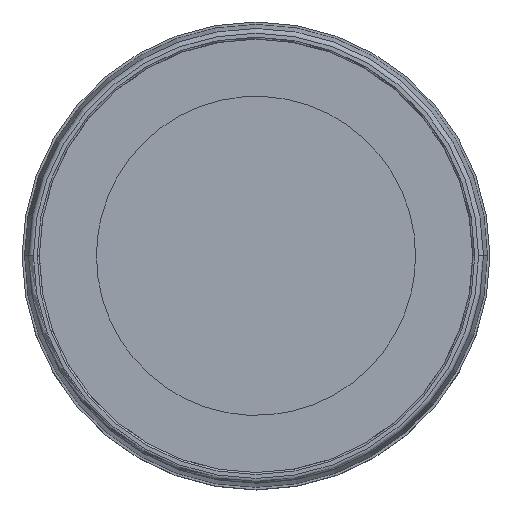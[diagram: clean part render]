
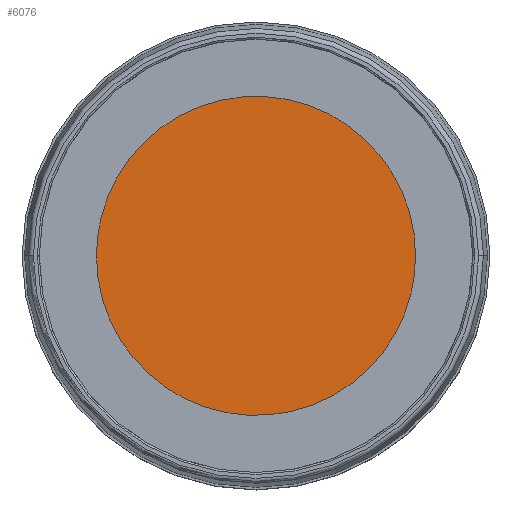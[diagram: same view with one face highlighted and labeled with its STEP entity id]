
A CAD part, top view. The second image highlights one B-rep face of the part: STEP entity #6076.
In plain terms, the highlighted planar face has unit normal (0, 0, 1).
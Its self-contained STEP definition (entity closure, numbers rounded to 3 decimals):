
#494=CARTESIAN_POINT('',(16.2,0.,-0.903));
#495=CARTESIAN_POINT('',(16.199,0.854,-0.903));
#496=CARTESIAN_POINT('',(16.068,2.539,-0.906));
#497=CARTESIAN_POINT('',(15.469,5.032,-0.905));
#498=CARTESIAN_POINT('',(14.497,7.379,-0.905));
#499=CARTESIAN_POINT('',(13.156,9.568,-0.905));
#500=CARTESIAN_POINT('',(11.508,11.497,-0.905));
#501=CARTESIAN_POINT('',(9.556,13.164,-0.905));
#502=CARTESIAN_POINT('',(7.391,14.491,-0.905));
#503=CARTESIAN_POINT('',(5.023,15.472,-0.905));
#504=CARTESIAN_POINT('',(2.548,16.066,-0.905));
#505=CARTESIAN_POINT('',(0.,16.267,-0.905));
#506=CARTESIAN_POINT('',(-2.548,16.066,
-0.905));
#507=CARTESIAN_POINT('',(-5.023,15.472,
-0.905));
#508=CARTESIAN_POINT('',(-7.391,14.491,
-0.905));
#509=CARTESIAN_POINT('',(-9.556,13.164,
-0.905));
#510=CARTESIAN_POINT('',(-11.508,11.497,
-0.905));
#511=CARTESIAN_POINT('',(-13.156,9.568,
-0.905));
#512=CARTESIAN_POINT('',(-14.497,7.379,
-0.905));
#513=CARTESIAN_POINT('',(-15.469,5.032,
-0.905));
#514=CARTESIAN_POINT('',(-16.068,2.539,
-0.906));
#515=CARTESIAN_POINT('',(-16.199,0.854,-0.903));
#516=CARTESIAN_POINT('',(-16.2,0.,-0.903));
#518=CARTESIAN_POINT('',(-16.2,0.,-0.903));
#519=CARTESIAN_POINT('',(-16.199,-0.854,-0.903));
#520=CARTESIAN_POINT('',(-16.068,-2.539,
-0.906));
#521=CARTESIAN_POINT('',(-15.469,-5.032,
-0.905));
#522=CARTESIAN_POINT('',(-14.497,-7.379,
-0.905));
#523=CARTESIAN_POINT('',(-13.156,-9.568,
-0.905));
#524=CARTESIAN_POINT('',(-11.508,-11.497,
-0.905));
#525=CARTESIAN_POINT('',(-9.556,-13.164,
-0.905));
#526=CARTESIAN_POINT('',(-7.391,-14.491,
-0.905));
#527=CARTESIAN_POINT('',(-5.023,-15.472,
-0.905));
#528=CARTESIAN_POINT('',(-2.548,-16.066,
-0.905));
#529=CARTESIAN_POINT('',(0.,-16.267,-0.905));
#530=CARTESIAN_POINT('',(2.548,-16.066,
-0.905));
#531=CARTESIAN_POINT('',(5.023,-15.472,
-0.905));
#532=CARTESIAN_POINT('',(7.391,-14.491,
-0.905));
#533=CARTESIAN_POINT('',(9.556,-13.164,
-0.905));
#534=CARTESIAN_POINT('',(11.508,-11.497,
-0.905));
#535=CARTESIAN_POINT('',(13.156,-9.568,
-0.905));
#536=CARTESIAN_POINT('',(14.497,-7.379,
-0.905));
#537=CARTESIAN_POINT('',(15.469,-5.032,
-0.905));
#538=CARTESIAN_POINT('',(16.068,-2.539,
-0.906));
#539=CARTESIAN_POINT('',(16.199,-0.854,-0.903));
#540=CARTESIAN_POINT('',(16.2,0.,-0.903));
#4318=VERTEX_POINT('',#494);
#4319=VERTEX_POINT('',#516);
#6067=CARTESIAN_POINT('',(0.,0.,-0.905));
#6068=DIRECTION('',(0.,0.,1.));
#6069=DIRECTION('',(1.,0.,0.));
#6070=AXIS2_PLACEMENT_3D('',#6067,#6068,#6069);
#6071=PLANE('',#6070);
#6072=ORIENTED_EDGE('',*,*,#6053,.F.);
#6073=ORIENTED_EDGE('',*,*,#6055,.F.);
#6074=EDGE_LOOP('',(#6072,#6073));
#6075=FACE_OUTER_BOUND('',#6074,.F.);
#517=B_SPLINE_CURVE_WITH_KNOTS('',3,(#494,#495,#496,#497,#498,#499,#500,#501,
#502,#503,#504,#505,#506,#507,#508,#509,#510,#511,#512,#513,#514,#515,#516),
.UNSPECIFIED.,.F.,.F.,(4,1,1,1,1,1,1,1,1,1,1,1,1,1,1,1,1,1,1,1,4),(0.,0.05,
0.1,0.15,0.2,0.25,0.3,0.35,0.4,0.45,0.5,0.55,0.6,0.65,
0.7,0.75,0.8,0.85,0.9,0.95,1.),.UNSPECIFIED.);
#541=B_SPLINE_CURVE_WITH_KNOTS('',3,(#518,#519,#520,#521,#522,#523,#524,#525,
#526,#527,#528,#529,#530,#531,#532,#533,#534,#535,#536,#537,#538,#539,#540),
.UNSPECIFIED.,.F.,.F.,(4,1,1,1,1,1,1,1,1,1,1,1,1,1,1,1,1,1,1,1,4),(0.,0.05,
0.1,0.15,0.2,0.25,0.3,0.35,0.4,0.45,0.5,0.55,0.6,0.65,
0.7,0.75,0.8,0.85,0.9,0.95,1.),.UNSPECIFIED.);
#6053=EDGE_CURVE('',#4318,#4319,#517,.T.);
#6055=EDGE_CURVE('',#4319,#4318,#541,.T.);
#6076=ADVANCED_FACE('',(#6075),#6071,.T.);
